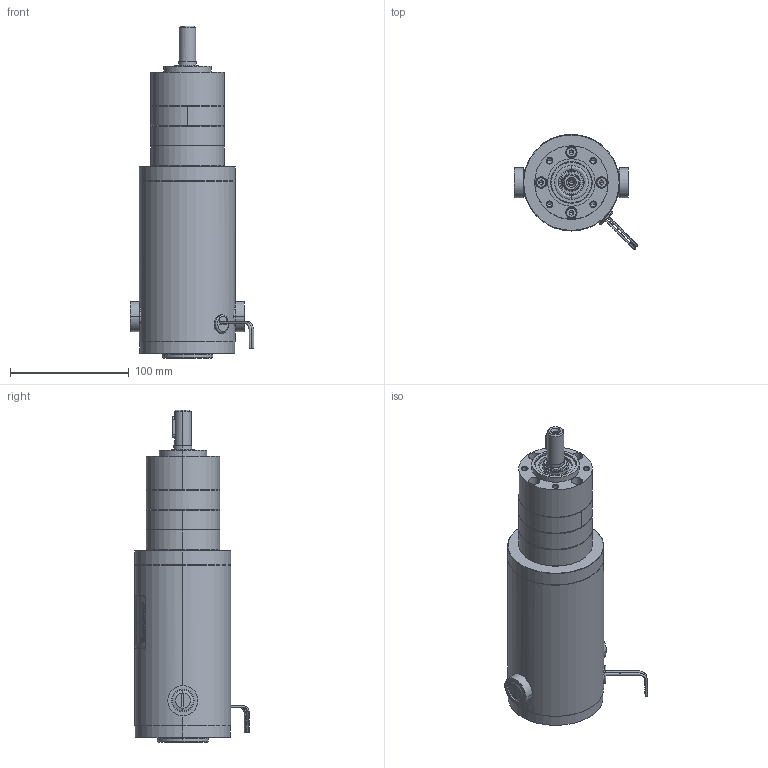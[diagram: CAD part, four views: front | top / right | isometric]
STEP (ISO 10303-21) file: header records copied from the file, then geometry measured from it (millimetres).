
FILE_DESCRIPTION (( 'STEP AP214' ), '1' );
FILE_NAME ('PM8014LV-PL6200i_3S.STEP', '2013-05-01T19:23:02', ( '' ), ( '' ), 'SwSTEP 2.0', 'SolidWorks 2013', '' );
FILE_SCHEMA (( 'AUTOMOTIVE_DESIGN' ));
Length unit declared in the file: inch
Products named in the file (1): PM8014LV-PL6200i_3S
Bounding box: 104.01 x 96.84 x 279.92 mm (x, y, z)
Surface area: 216983.7 mm2 (no closed solid volume)
Topology: 0 solids, 36 shells, 2306 faces, 6058 edges, 3863 vertices
Faces by surface type: cylinder 823, plane 739, bspline 322, torus 208, cone 177, sphere 37
Entity records: 122116 total; most frequent: CARTESIAN_POINT 36319, ORIENTED_EDGE 11968, DIRECTION 11100, EDGE_CURVE 5986, AXIS2_PLACEMENT_3D 4226, VERTEX_POINT 3846, VECTOR 2648, LINE 2648
